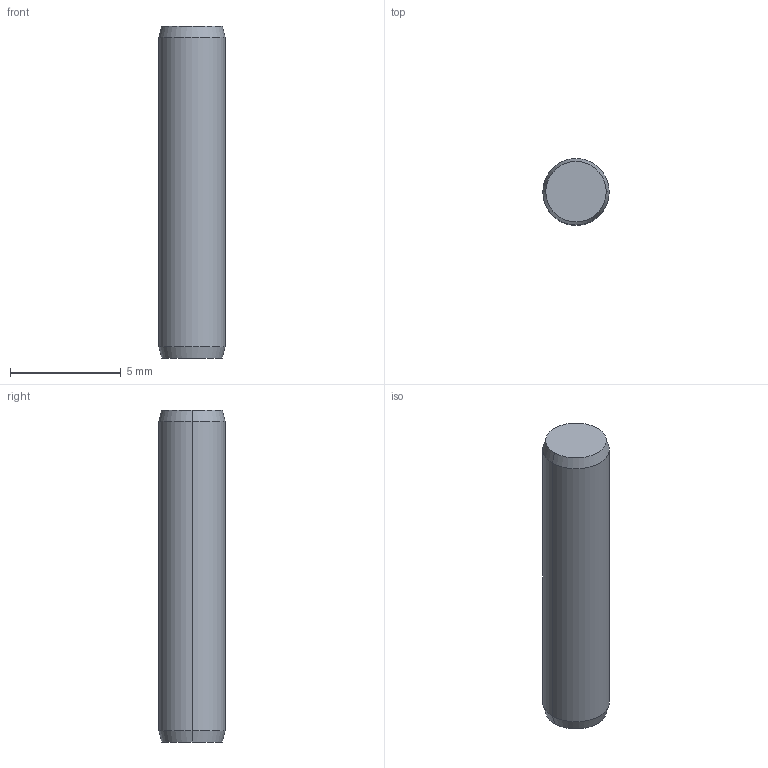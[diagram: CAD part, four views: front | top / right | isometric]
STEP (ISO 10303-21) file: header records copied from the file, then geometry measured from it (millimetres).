
FILE_DESCRIPTION (( 'STEP AP214' ), '1' );
FILE_NAME ('spina d3x15.STEP', '2016-02-27T11:33:25', ( '' ), ( '' ), 'SwSTEP 2.0', 'SolidWorks 2012', '' );
FILE_SCHEMA (( 'AUTOMOTIVE_DESIGN' ));
Length unit declared in the file: millimetre
Products named in the file (1): spina d3x15
Bounding box: 3 x 3 x 15 mm (x, y, z)
Volume: 105.4 mm3; surface area: 153 mm2
Topology: 1 solids, 1 shells, 8 faces, 14 edges, 8 vertices
Faces by surface type: cone 4, cylinder 2, plane 2
Entity records: 228 total; most frequent: DIRECTION 40, CARTESIAN_POINT 31, ORIENTED_EDGE 28, AXIS2_PLACEMENT_3D 17, EDGE_CURVE 14, VERTEX_POINT 8, CIRCLE 8, FACE_OUTER_BOUND 8
